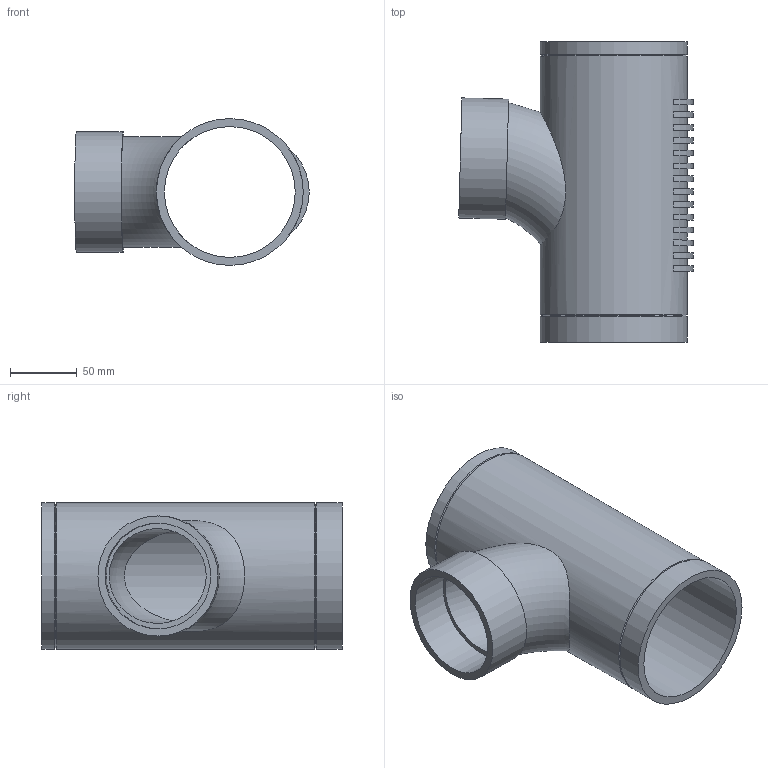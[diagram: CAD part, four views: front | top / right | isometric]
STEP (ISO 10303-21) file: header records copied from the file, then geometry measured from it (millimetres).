
FILE_DESCRIPTION(/* description */ (''),/* implementation_level */ '2;1');
FILE_NAME(/* name */ 'Z:\Geberit\Export\NewStep\DoppelAbzweigMax_Ipart\stp\310088.stp',/* time_stamp */ '2014-04-03T18:07:48+02:00',/* author */ ('ML'),/* organization */ (''),/* preprocessor_version */ 'ST-DEVELOPER v15.2',/* originating_system */ 'Autodesk Inventor 2014',/* authorisation */ '');
FILE_SCHEMA (('AUTOMOTIVE_DESIGN { 1 0 10303 214 3 1 1 }'));
Length unit declared in the file: millimetre
Products named in the file (1): 310088
Bounding box: 175.64 x 225 x 110 mm (x, y, z)
Volume: 531943.3 mm3; surface area: 186999.8 mm2
Topology: 1 solids, 1 shells, 59 faces, 118 edges, 76 vertices
Faces by surface type: plane 33, cylinder 20, cone 4, torus 2
Full cylindrical faces by diameter (mm): 79 x1, 90 x1, 98 x1, 110 x3
Entity records: 1760 total; most frequent: CARTESIAN_POINT 446, DIRECTION 288, ORIENTED_EDGE 204, AXIS2_PLACEMENT_3D 130, EDGE_CURVE 102, EDGE_LOOP 92, VERTEX_POINT 74, CIRCLE 70
